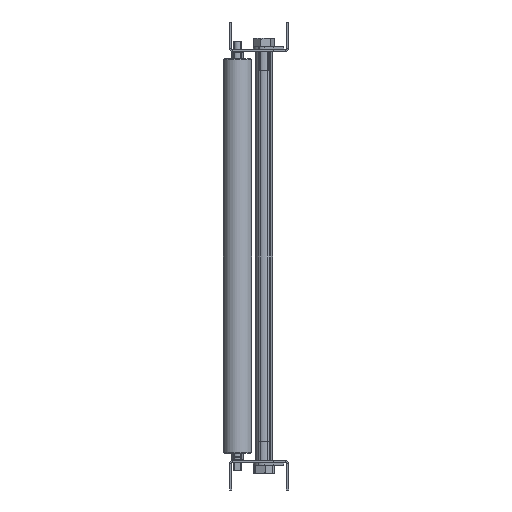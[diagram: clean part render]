
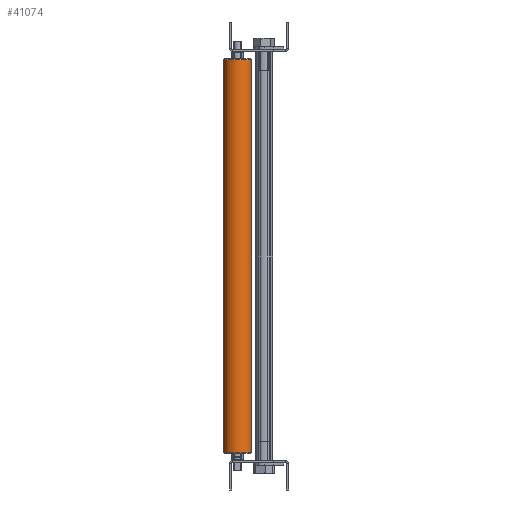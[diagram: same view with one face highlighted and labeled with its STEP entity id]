
A CAD part, left-side view. The second image highlights one B-rep face of the part: STEP entity #41074.
In plain terms, the highlighted cylindrical face has radius 14.3 mm (diameter 28.6 mm), a partial arc.
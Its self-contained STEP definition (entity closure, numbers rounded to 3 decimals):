
#306 = DIRECTION ( 'NONE',  ( 0., 0., -1. ) ) ;
#1212 = VERTEX_POINT ( 'NONE', #11001 ) ;
#1573 = ORIENTED_EDGE ( 'NONE', *, *, #32580, .F. ) ;
#2020 = VECTOR ( 'NONE', #306, 1000. ) ;
#2273 = CARTESIAN_POINT ( 'NONE',  ( -1248.559, 117.625, -23.5 ) ) ;
#2356 = ORIENTED_EDGE ( 'NONE', *, *, #39207, .T. ) ;
#4609 = CYLINDRICAL_SURFACE ( 'NONE', #44718, 14.3 ) ;
#7478 = ORIENTED_EDGE ( 'NONE', *, *, #28652, .T. ) ;
#7952 = DIRECTION ( 'NONE',  ( 0., 0., -1. ) ) ;
#10967 = LINE ( 'NONE', #39519, #18501 ) ;
#11001 = CARTESIAN_POINT ( 'NONE',  ( -1248.509, 103.325, -23.5 ) ) ;
#12889 = DIRECTION ( 'NONE',  ( -0.003, 1., 0. ) ) ;
#14992 = FACE_OUTER_BOUND ( 'NONE', #17820, .T. ) ;
#16351 = DIRECTION ( 'NONE',  ( 0., 0., -1. ) ) ;
#16808 = VERTEX_POINT ( 'NONE', #35083 ) ;
#17820 = EDGE_LOOP ( 'NONE', ( #1573, #2356, #7478, #35810 ) ) ;
#18501 = VECTOR ( 'NONE', #7952, 1000. ) ;
#21676 = DIRECTION ( 'NONE',  ( -0.003, 1., 0. ) ) ;
#23678 = CARTESIAN_POINT ( 'NONE',  ( -1248.559, 117.625, -421.5 ) ) ;
#23751 = VERTEX_POINT ( 'NONE', #25113 ) ;
#25113 = CARTESIAN_POINT ( 'NONE',  ( -1248.609, 131.925, -23.5 ) ) ;
#26183 = AXIS2_PLACEMENT_3D ( 'NONE', #2273, #16351, #12889 ) ;
#27079 = CARTESIAN_POINT ( 'NONE',  ( -1248.609, 131.925, -421.5 ) ) ;
#27355 = DIRECTION ( 'NONE',  ( 0.003, -1., 0. ) ) ;
#28652 = EDGE_CURVE ( 'NONE', #23751, #35101, #35587, .T. ) ;
#29912 = AXIS2_PLACEMENT_3D ( 'NONE', #23678, #44830, #27355 ) ;
#31894 = CARTESIAN_POINT ( 'NONE',  ( -1248.609, 131.925, -770.041 ) ) ;
#32580 = EDGE_CURVE ( 'NONE', #1212, #16808, #10967, .T. ) ;
#33612 = CIRCLE ( 'NONE', #29912, 14.3 ) ;
#35083 = CARTESIAN_POINT ( 'NONE',  ( -1248.509, 103.325, -421.5 ) ) ;
#35101 = VERTEX_POINT ( 'NONE', #27079 ) ;
#35587 = LINE ( 'NONE', #31894, #2020 ) ;
#35810 = ORIENTED_EDGE ( 'NONE', *, *, #39945, .T. ) ;
#36421 = DIRECTION ( 'NONE',  ( 0., 0., -1. ) ) ;
#39207 = EDGE_CURVE ( 'NONE', #1212, #23751, #43078, .T. ) ;
#39519 = CARTESIAN_POINT ( 'NONE',  ( -1248.509, 103.325, -770.041 ) ) ;
#39945 = EDGE_CURVE ( 'NONE', #35101, #16808, #33612, .T. ) ;
#40084 = CARTESIAN_POINT ( 'NONE',  ( -1248.559, 117.625, -770.041 ) ) ;
#41074 = ADVANCED_FACE ( 'NONE', ( #14992 ), #4609, .T. ) ;
#43078 = CIRCLE ( 'NONE', #26183, 14.3 ) ;
#44718 = AXIS2_PLACEMENT_3D ( 'NONE', #40084, #36421, #21676 ) ;
#44830 = DIRECTION ( 'NONE',  ( 0., 0., 1. ) ) ;
